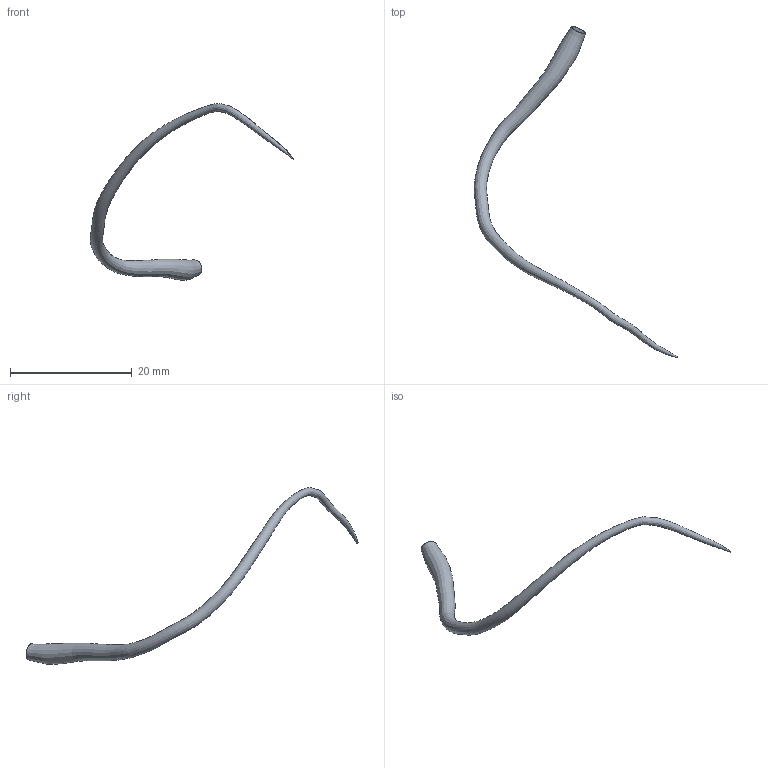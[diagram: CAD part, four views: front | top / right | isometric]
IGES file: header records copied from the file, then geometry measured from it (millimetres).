
Global section: file name: C:\Documents and Settings\Administrator\Desktop\FDA-Pig\Domestic LCA\Pig_000137\lcx.seg.es.igs; native system: Rhinoceros ( May 19 2006 ); preprocessor: Trout Lake IGES 012 May 19 2006; date: 111205.184212; units: centimetre
Bounding box: 33.39 x 54.43 x 28.96 mm (x, y, z)
Surface area: 1001.3 mm2 (no closed solid volume)
Topology: 0 solids, 0 shells, 4 faces, 13 edges, 10 vertices
Faces by surface type: bspline 4
